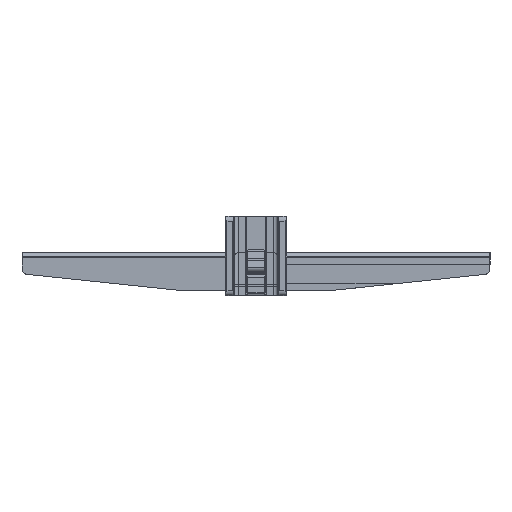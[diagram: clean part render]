
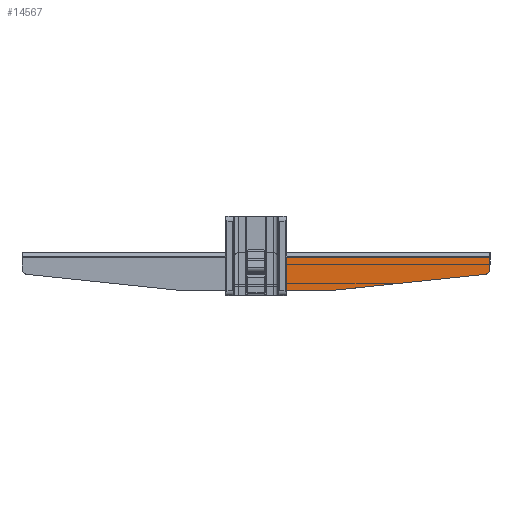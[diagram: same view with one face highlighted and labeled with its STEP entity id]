
A CAD part, front view. The second image highlights one B-rep face of the part: STEP entity #14567.
In plain terms, the highlighted planar face has unit normal (0, -1, 0).
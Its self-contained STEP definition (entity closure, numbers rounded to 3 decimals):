
#99 = VERTEX_POINT ( 'NONE', #4252 ) ;
#104 = CARTESIAN_POINT ( 'NONE',  ( 35.45, 4470.2, 1581.3 ) ) ;
#142 = EDGE_CURVE ( 'NONE', #5193, #10760, #12908, .T. ) ;
#201 = LINE ( 'NONE', #1638, #10155 ) ;
#582 = VERTEX_POINT ( 'NONE', #7010 ) ;
#612 = CARTESIAN_POINT ( 'NONE',  ( 156.25, 4470.2, 1589.723 ) ) ;
#627 = EDGE_CURVE ( 'NONE', #12847, #9365, #13190, .T. ) ;
#715 = DIRECTION ( 'NONE',  ( -1., 0., 0. ) ) ;
#777 = VERTEX_POINT ( 'NONE', #14888 ) ;
#786 = CARTESIAN_POINT ( 'NONE',  ( 35.45, 4470.2, 1581.8 ) ) ;
#887 = DIRECTION ( 'NONE',  ( -1., 0., 0. ) ) ;
#940 = EDGE_CURVE ( 'NONE', #582, #14625, #14068, .T. ) ;
#978 = VERTEX_POINT ( 'NONE', #5837 ) ;
#1191 = CIRCLE ( 'NONE', #10281, 5. ) ;
#1261 = VECTOR ( 'NONE', #15977, 1000. ) ;
#1334 = DIRECTION ( 'NONE',  ( 0., 0., 1. ) ) ;
#1483 = DIRECTION ( 'NONE',  ( 0., -1., 0. ) ) ;
#1492 = AXIS2_PLACEMENT_3D ( 'NONE', #12616, #2618, #13902 ) ;
#1542 = CARTESIAN_POINT ( 'NONE',  ( 36.75, 4470.2, 1581.3 ) ) ;
#1602 = LINE ( 'NONE', #13876, #12585 ) ;
#1638 = CARTESIAN_POINT ( 'NONE',  ( 556.1, 4470.2, 1628.733 ) ) ;
#1767 = CARTESIAN_POINT ( 'NONE',  ( 35.45, 4470.2, 1592.3 ) ) ;
#1928 = EDGE_CURVE ( 'NONE', #777, #582, #11930, .T. ) ;
#2188 = ORIENTED_EDGE ( 'NONE', *, *, #11051, .T. ) ;
#2475 = EDGE_CURVE ( 'NONE', #12534, #777, #6144, .T. ) ;
#2497 = AXIS2_PLACEMENT_3D ( 'NONE', #3840, #1483, #1334 ) ;
#2587 = CARTESIAN_POINT ( 'NONE',  ( 36.75, 4470.2, 1596.3 ) ) ;
#2618 = DIRECTION ( 'NONE',  ( 0., -1., 0. ) ) ;
#2647 = CARTESIAN_POINT ( 'NONE',  ( 36.75, 4470.2, 1599.3 ) ) ;
#2796 = DIRECTION ( 'NONE',  ( 0., 0., 1. ) ) ;
#2928 = CARTESIAN_POINT ( 'NONE',  ( 36.75, 4470.2, 1592.3 ) ) ;
#3083 = VECTOR ( 'NONE', #12569, 1000. ) ;
#3366 = EDGE_LOOP ( 'NONE', ( #11213, #4052, #4057, #10038, #12354, #11634, #6714, #15757, #8437, #4890, #10664, #14301, #2188, #13757, #12636, #6043 ) ) ;
#3381 = CARTESIAN_POINT ( 'NONE',  ( 34.95, 4470.2, 1591.8 ) ) ;
#3498 = EDGE_CURVE ( 'NONE', #99, #10760, #8549, .T. ) ;
#3840 = CARTESIAN_POINT ( 'NONE',  ( 35.45, 4470.2, 1591.8 ) ) ;
#4052 = ORIENTED_EDGE ( 'NONE', *, *, #4385, .T. ) ;
#4057 = ORIENTED_EDGE ( 'NONE', *, *, #11801, .T. ) ;
#4252 = CARTESIAN_POINT ( 'NONE',  ( 159.25, 4470.2, 1596.3 ) ) ;
#4271 = DIRECTION ( 'NONE',  ( 1., 0., 0. ) ) ;
#4315 = VECTOR ( 'NONE', #7163, 1000. ) ;
#4385 = EDGE_CURVE ( 'NONE', #10649, #978, #1191, .T. ) ;
#4386 = CARTESIAN_POINT ( 'NONE',  ( 36.6, 4470.2, 1581.3 ) ) ;
#4515 = DIRECTION ( 'NONE',  ( 0., 0., 1. ) ) ;
#4778 = CARTESIAN_POINT ( 'NONE',  ( 36.75, 4470.2, 1581.15 ) ) ;
#4876 = DIRECTION ( 'NONE',  ( 0., 0., -1. ) ) ;
#4890 = ORIENTED_EDGE ( 'NONE', *, *, #7879, .T. ) ;
#5160 = DIRECTION ( 'NONE',  ( 0., -1., 0. ) ) ;
#5193 = VERTEX_POINT ( 'NONE', #10310 ) ;
#5308 = CARTESIAN_POINT ( 'NONE',  ( 66.488, 4470.2, 1582.3 ) ) ;
#5597 = EDGE_CURVE ( 'NONE', #15526, #10927, #7607, .T. ) ;
#5627 = CARTESIAN_POINT ( 'NONE',  ( 66.488, 4470.2, 1577.3 ) ) ;
#5837 = CARTESIAN_POINT ( 'NONE',  ( 67.011, 4470.2, 1577.327 ) ) ;
#6043 = ORIENTED_EDGE ( 'NONE', *, *, #9417, .T. ) ;
#6144 = LINE ( 'NONE', #2647, #1261 ) ;
#6157 = CIRCLE ( 'NONE', #1492, 0.2 ) ;
#6278 = CARTESIAN_POINT ( 'NONE',  ( 159.25, 4470.2, 1589.723 ) ) ;
#6332 = DIRECTION ( 'NONE',  ( 1., 0., 0. ) ) ;
#6392 = EDGE_CURVE ( 'NONE', #10649, #13947, #11861, .T. ) ;
#6397 = PLANE ( 'NONE',  #13625 ) ;
#6470 = VECTOR ( 'NONE', #6332, 1000. ) ;
#6593 = DIRECTION ( 'NONE',  ( 0.995, 0., 0.105 ) ) ;
#6714 = ORIENTED_EDGE ( 'NONE', *, *, #2475, .T. ) ;
#6789 = DIRECTION ( 'NONE',  ( 0., 0., 1. ) ) ;
#6858 = DIRECTION ( 'NONE',  ( 0., -1., 0. ) ) ;
#6888 = CARTESIAN_POINT ( 'NONE',  ( 556.1, 4470.2, 1577.3 ) ) ;
#7010 = CARTESIAN_POINT ( 'NONE',  ( 36.6, 4470.2, 1592.3 ) ) ;
#7037 = VECTOR ( 'NONE', #887, 1000. ) ;
#7163 = DIRECTION ( 'NONE',  ( 0., 0., -1. ) ) ;
#7525 = AXIS2_PLACEMENT_3D ( 'NONE', #12618, #7580, #14968 ) ;
#7580 = DIRECTION ( 'NONE',  ( 0., 1., 0. ) ) ;
#7607 = LINE ( 'NONE', #10137, #3083 ) ;
#7879 = EDGE_CURVE ( 'NONE', #14625, #12847, #8738, .T. ) ;
#7951 = CARTESIAN_POINT ( 'NONE',  ( 556.1, 4470.2, 1599.3 ) ) ;
#7955 = AXIS2_PLACEMENT_3D ( 'NONE', #11895, #14162, #15377 ) ;
#8065 = EDGE_CURVE ( 'NONE', #9621, #15526, #15464, .T. ) ;
#8437 = ORIENTED_EDGE ( 'NONE', *, *, #940, .T. ) ;
#8549 = LINE ( 'NONE', #13740, #13642 ) ;
#8720 = CARTESIAN_POINT ( 'NONE',  ( 34.95, 4470.2, 1581.8 ) ) ;
#8738 = CIRCLE ( 'NONE', #2497, 0.5 ) ;
#9365 = VERTEX_POINT ( 'NONE', #8720 ) ;
#9417 = EDGE_CURVE ( 'NONE', #10927, #13947, #6157, .T. ) ;
#9618 = CARTESIAN_POINT ( 'NONE',  ( 36.95, 4470.2, 1577.3 ) ) ;
#9621 = VERTEX_POINT ( 'NONE', #4386 ) ;
#9903 = EDGE_CURVE ( 'NONE', #9365, #12210, #16040, .T. ) ;
#10038 = ORIENTED_EDGE ( 'NONE', *, *, #142, .T. ) ;
#10137 = CARTESIAN_POINT ( 'NONE',  ( 36.75, 4470.2, 1581.8 ) ) ;
#10155 = VECTOR ( 'NONE', #6593, 1000. ) ;
#10281 = AXIS2_PLACEMENT_3D ( 'NONE', #5308, #5160, #2796 ) ;
#10310 = CARTESIAN_POINT ( 'NONE',  ( 156.564, 4470.2, 1586.74 ) ) ;
#10649 = VERTEX_POINT ( 'NONE', #5627 ) ;
#10664 = ORIENTED_EDGE ( 'NONE', *, *, #627, .T. ) ;
#10760 = VERTEX_POINT ( 'NONE', #6278 ) ;
#10927 = VERTEX_POINT ( 'NONE', #13261 ) ;
#11051 = EDGE_CURVE ( 'NONE', #12210, #9621, #12686, .T. ) ;
#11213 = ORIENTED_EDGE ( 'NONE', *, *, #6392, .F. ) ;
#11379 = DIRECTION ( 'NONE',  ( 0., -1., 0. ) ) ;
#11634 = ORIENTED_EDGE ( 'NONE', *, *, #14631, .T. ) ;
#11801 = EDGE_CURVE ( 'NONE', #978, #5193, #201, .T. ) ;
#11847 = DIRECTION ( 'NONE',  ( 0., -1., 0. ) ) ;
#11861 = LINE ( 'NONE', #6888, #11900 ) ;
#11895 = CARTESIAN_POINT ( 'NONE',  ( 36.6, 4470.2, 1581.15 ) ) ;
#11900 = VECTOR ( 'NONE', #715, 1000. ) ;
#11930 = CIRCLE ( 'NONE', #7525, 0.15 ) ;
#12053 = CARTESIAN_POINT ( 'NONE',  ( 34.95, 4470.2, 1599.3 ) ) ;
#12210 = VERTEX_POINT ( 'NONE', #104 ) ;
#12354 = ORIENTED_EDGE ( 'NONE', *, *, #3498, .F. ) ;
#12534 = VERTEX_POINT ( 'NONE', #2587 ) ;
#12569 = DIRECTION ( 'NONE',  ( 0., 0., -1. ) ) ;
#12585 = VECTOR ( 'NONE', #12591, 1000. ) ;
#12591 = DIRECTION ( 'NONE',  ( -1., 0., 0. ) ) ;
#12616 = CARTESIAN_POINT ( 'NONE',  ( 36.95, 4470.2, 1577.5 ) ) ;
#12618 = CARTESIAN_POINT ( 'NONE',  ( 36.6, 4470.2, 1592.45 ) ) ;
#12636 = ORIENTED_EDGE ( 'NONE', *, *, #5597, .T. ) ;
#12686 = LINE ( 'NONE', #1542, #6470 ) ;
#12847 = VERTEX_POINT ( 'NONE', #3381 ) ;
#12908 = CIRCLE ( 'NONE', #14196, 3. ) ;
#13190 = LINE ( 'NONE', #12053, #4315 ) ;
#13261 = CARTESIAN_POINT ( 'NONE',  ( 36.75, 4470.2, 1577.5 ) ) ;
#13450 = AXIS2_PLACEMENT_3D ( 'NONE', #786, #11847, #4515 ) ;
#13625 = AXIS2_PLACEMENT_3D ( 'NONE', #7951, #11379, #4271 ) ;
#13642 = VECTOR ( 'NONE', #4876, 1000. ) ;
#13740 = CARTESIAN_POINT ( 'NONE',  ( 159.25, 4470.2, 1599.3 ) ) ;
#13757 = ORIENTED_EDGE ( 'NONE', *, *, #8065, .T. ) ;
#13799 = FACE_OUTER_BOUND ( 'NONE', #3366, .T. ) ;
#13876 = CARTESIAN_POINT ( 'NONE',  ( 159.25, 4470.2, 1596.3 ) ) ;
#13902 = DIRECTION ( 'NONE',  ( 0., 0., 1. ) ) ;
#13947 = VERTEX_POINT ( 'NONE', #9618 ) ;
#14068 = LINE ( 'NONE', #2928, #7037 ) ;
#14162 = DIRECTION ( 'NONE',  ( 0., 1., 0. ) ) ;
#14196 = AXIS2_PLACEMENT_3D ( 'NONE', #612, #6858, #6789 ) ;
#14301 = ORIENTED_EDGE ( 'NONE', *, *, #9903, .T. ) ;
#14567 = ADVANCED_FACE ( 'NONE', ( #13799 ), #6397, .T. ) ;
#14625 = VERTEX_POINT ( 'NONE', #1767 ) ;
#14631 = EDGE_CURVE ( 'NONE', #99, #12534, #1602, .T. ) ;
#14888 = CARTESIAN_POINT ( 'NONE',  ( 36.75, 4470.2, 1592.45 ) ) ;
#14968 = DIRECTION ( 'NONE',  ( 0., 0., 1. ) ) ;
#15377 = DIRECTION ( 'NONE',  ( 0., 0., 1. ) ) ;
#15464 = CIRCLE ( 'NONE', #7955, 0.15 ) ;
#15526 = VERTEX_POINT ( 'NONE', #4778 ) ;
#15757 = ORIENTED_EDGE ( 'NONE', *, *, #1928, .T. ) ;
#15977 = DIRECTION ( 'NONE',  ( 0., 0., -1. ) ) ;
#16040 = CIRCLE ( 'NONE', #13450, 0.5 ) ;
